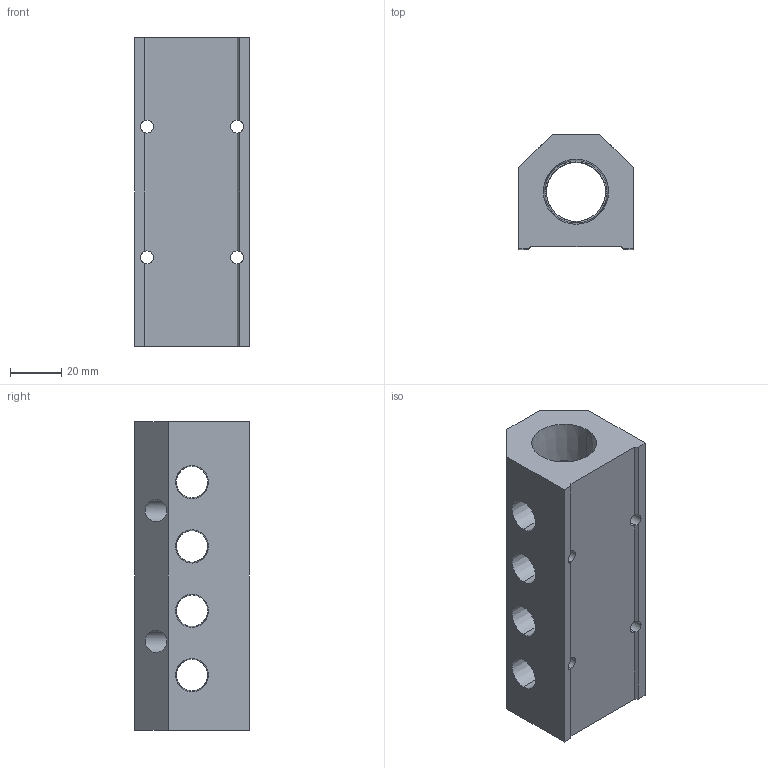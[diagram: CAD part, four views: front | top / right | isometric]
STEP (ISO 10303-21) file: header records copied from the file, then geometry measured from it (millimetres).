
FILE_DESCRIPTION (( 'STEP AP214' ), '1' );
FILE_NAME ('ALM4ACE-N4N12-120R.step', '2022-02-06T14:06:03', ( '' ), ( '' ), 'SwSTEP 2.0', 'SolidWorks 2020', '' );
FILE_SCHEMA (( 'AUTOMOTIVE_DESIGN' ));
Length unit declared in the file: millimetre
Products named in the file (1): ALM4ACE-N4N12-120R
Bounding box: 44.5 x 44.5 x 120 mm (x, y, z)
Volume: 140779.8 mm3; surface area: 35762.6 mm2
Topology: 1 solids, 1 shells, 326 faces, 885 edges, 582 vertices
Faces by surface type: plane 228, bspline 41, cone 34, cylinder 23
Entity records: 17157 total; most frequent: CARTESIAN_POINT 6287, ORIENTED_EDGE 1770, DIRECTION 1373, EDGE_CURVE 885, VECTOR 653, LINE 653, VERTEX_POINT 582, EDGE_LOOP 381
